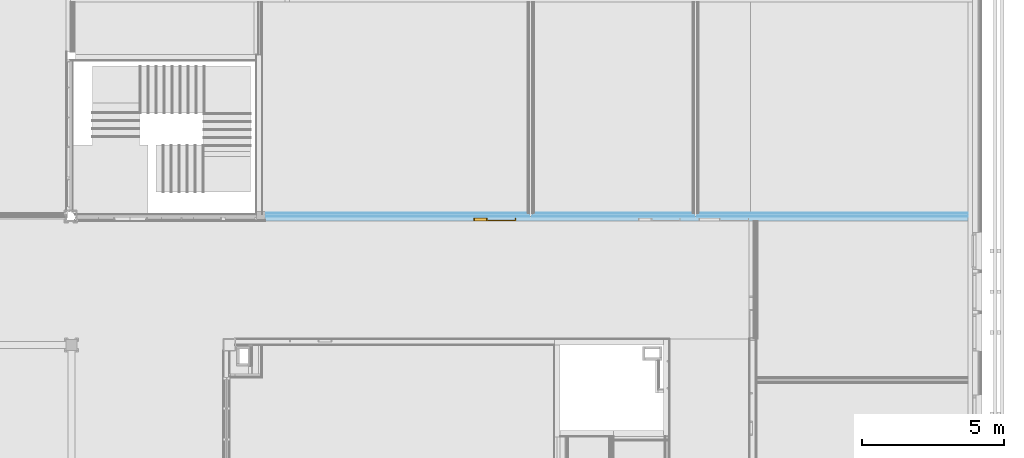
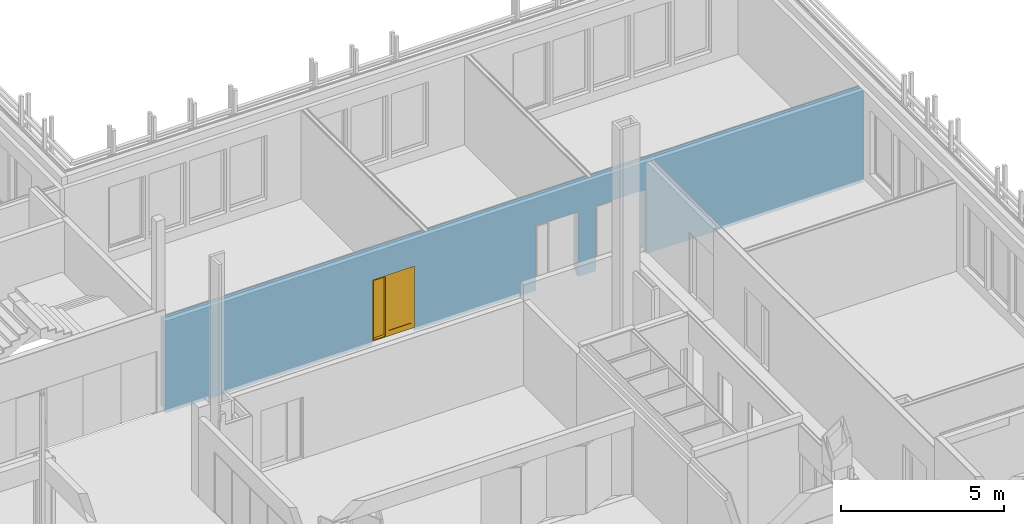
# One storey, part 69 of 139: 1 door, 3 openings, 1 element without a shape of its own, plus 7 elements that do not belong to this part.
"""IFC2X3 building model written with IfcOpenShell, lengths in millimetres."""

from ifc_helpers import new_model, entity, si_unit, converted_unit, derived_unit, money_unit, direction, frame, origin_with_axes, place, context, subcontext, project, spatial, open_shell, faceted_brep, surface_model, source, transform, mapped, material, type_object, element, fill, aggregate, save


model = new_model("IFC2X3")

# Units and contexts
model_context = context("Model", 3, precision=0.01, world=origin_with_axes(), true_north=direction((0.0, 1.0)))
body_context = subcontext(model_context, "Body", "Model", "MODEL_VIEW")
ifc_project = project(units=[si_unit("LENGTHUNIT", "METRE", prefix="MILLI"), si_unit("AREAUNIT", "SQUARE_METRE"), si_unit("VOLUMEUNIT", "CUBIC_METRE"), converted_unit("PLANEANGLEUNIT", "DEGREE", entity("IfcPlaneAngleMeasure", 0.0174532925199), si_unit("PLANEANGLEUNIT", "RADIAN"), dimensions=[0, 0, 0, 0, 0, 0, 0]), money_unit("EUR"), converted_unit("TIMEUNIT", "Year", entity("IfcTimeMeasure", 31556926.0), si_unit("TIMEUNIT", "SECOND"), dimensions=[0, 0, 1, 0, 0, 0, 0]), si_unit("MASSUNIT", "GRAM", prefix="KILO"), si_unit("THERMODYNAMICTEMPERATUREUNIT", "DEGREE_CELSIUS"), si_unit("LUMINOUSINTENSITYUNIT", "LUMEN"), si_unit("ENERGYUNIT", "JOULE", prefix="MEGA"), derived_unit("THERMALCONDUCTANCEUNIT", [(si_unit("POWERUNIT", "WATT"), 1), (si_unit("LENGTHUNIT", "METRE"), -1), (si_unit("THERMODYNAMICTEMPERATUREUNIT", "KELVIN"), -1)]), derived_unit("SPECIFICHEATCAPACITYUNIT", [(si_unit("ENERGYUNIT", "JOULE"), 1), (si_unit("MASSUNIT", "GRAM", prefix="KILO"), -1), (si_unit("THERMODYNAMICTEMPERATUREUNIT", "KELVIN"), -1)]), derived_unit("MASSDENSITYUNIT", [(si_unit("MASSUNIT", "GRAM", prefix="KILO"), 1), (si_unit("VOLUMEUNIT", "CUBIC_METRE"), -1)])], contexts=[model_context])

# Site, building, storey
site_placement = place(None, origin_with_axes())
site = spatial("IfcSite", under=ifc_project, at=site_placement, Name="Kolde pst 67a", CompositionType="ELEMENT")
building_placement = place(site_placement, origin_with_axes())
building = spatial("IfcBuilding", under=site, at=building_placement, Name="Riigigümnaasium", CompositionType="ELEMENT")
storey_placement = place(building_placement, frame((0.0, 0.0, 4600.0), z_axis=(0.0, 0.0, 1.0), x_axis=(1.0, 0.0, 0.0)))
storey = spatial("IfcBuildingStorey", under=building, at=storey_placement, Name="2. korrus", CompositionType="ELEMENT", Elevation=4600.0)

# Door
door_style = type_object("IfcDoorStyle", Name="Door with Sidelight on Side 2 25", ConstructionType="NOTDEFINED", OperationType="SINGLE_SWING_LEFT", ParameterTakesPrecedence=False, Sizeable=False)
shared_shape = source(origin_with_axes(), body_context, "Body", "SurfaceModel", [
    faceted_brep([(750.0, 0.0, 0.0), (750.0, -115.0, 0.0), (710.0, -115.0, 0.0), (710.0, 0.0, 0.0), (750.0, 0.0, 2260.0), (750.0, -115.0, 2260.0), (710.0, -115.0, 2260.0), (710.0, -115.0, 40.0), (710.0, 0.0, 40.0), (710.0, 0.0, 2260.0)], [[[0, 1, 2, 3]], [[4, 5, 1, 0]], [[1, 5, 6, 7, 2]], [[3, 2, 7, 8]], [[0, 3, 8, 9, 4]], [[9, 6, 5, 4]], [[8, 7, 6, 9]]]),
    faceted_brep([(250.0, -40.0, 0.0), (250.0, -115.0, 0.0), (250.0, -115.0, 2260.0), (250.0, -40.0, 2260.0), (262.0, -40.0, 0.0), (262.0, 0.0, 0.0), (290.0, 0.0, 0.0), (290.0, -115.0, 0.0), (290.0, -115.0, 40.0), (290.0, -115.0, 2260.0), (262.0, -40.0, 2260.0), (290.0, 0.0, 2260.0), (262.0, 0.0, 2260.0), (290.0, 0.0, 40.0)], [[[0, 1, 2, 3]], [[4, 5, 6, 7, 1, 0]], [[7, 8, 9, 2, 1]], [[10, 3, 2, 9, 11, 12]], [[10, 4, 0, 3]], [[12, 5, 4, 10]], [[12, 11, 13, 6, 5]], [[6, 13, 8, 7]], [[13, 11, 9, 8]]]),
    faceted_brep([(710.0, 0.0, 40.0), (710.0, -115.0, 40.0), (710.0, -115.0, 0.0), (710.0, 0.0, 0.0), (290.0, 0.0, 40.0), (290.0, -115.0, 40.0), (290.0, -115.0, 0.0), (290.0, 0.0, 0.0)], [[[0, 1, 2, 3]], [[4, 5, 1, 0]], [[1, 5, 6, 2]], [[3, 2, 6, 7]], [[0, 3, 7, 4]], [[7, 6, 5, 4]]]),
    faceted_brep([(-722.0, -40.0, 2260.0), (-722.0, 0.0, 2260.0), (-750.0, 0.0, 2260.0), (-750.0, -115.0, 2260.0), (-710.0, -115.0, 2260.0), (-710.0, -40.0, 2260.0), (-722.0, -40.0, 0.0), (-722.0, 0.0, 0.0), (-750.0, 0.0, 0.0), (-750.0, -115.0, 0.0), (-710.0, -115.0, 0.0), (-710.0, -40.0, 0.0)], [[[0, 1, 2, 3, 4, 5]], [[0, 6, 7, 1]], [[7, 8, 2, 1]], [[2, 8, 9, 3]], [[3, 9, 10, 4]], [[5, 4, 10, 11]], [[5, 11, 6, 0]], [[6, 11, 10, 9, 8, 7]]]),
    faceted_brep([(262.0, 0.0, 2272.0), (-722.0, 0.0, 2272.0), (-722.0, 0.0, 2260.0), (-750.0, 0.0, 2260.0), (-750.0, 0.0, 2300.0), (750.0, 0.0, 2300.0), (750.0, 0.0, 2260.0), (710.0, 0.0, 2260.0), (290.0, 0.0, 2260.0), (262.0, 0.0, 2260.0), (262.0, -40.0, 2272.0), (-722.0, -40.0, 2272.0), (-722.0, -40.0, 2260.0), (-710.0, -40.0, 2260.0), (-710.0, -115.0, 2260.0), (-750.0, -115.0, 2260.0), (-750.0, -115.0, 2300.0), (750.0, -115.0, 2300.0), (750.0, -115.0, 2260.0), (710.0, -115.0, 2260.0), (290.0, -115.0, 2260.0), (262.0, -40.0, 2260.0), (250.0, -115.0, 2260.0)], [[[0, 1, 2, 3, 4, 5, 6, 7, 8, 9]], [[0, 10, 11, 1]], [[1, 11, 12, 2]], [[12, 13, 14, 15, 3, 2]], [[4, 3, 15, 16]], [[5, 4, 16, 17]], [[6, 5, 17, 18]], [[7, 6, 18, 19]], [[8, 7, 19, 20]], [[21, 9, 8, 20, 22, 14, 13]], [[9, 21, 10, 0]], [[12, 11, 10, 21, 13]], [[14, 22, 20, 19, 18, 17, 16, 15]]]),
    faceted_brep([(-722.0, 0.0, 200.0), (-622.0, 0.0, 200.0), (-622.0, -40.0, 200.0), (-722.0, -40.0, 200.0), (-722.0, 0.0, 2172.0), (-622.0, 0.0, 2172.0), (-622.0, -40.0, 2172.0), (-722.0, -40.0, 2172.0)], [[[0, 1, 2, 3]], [[0, 4, 5, 1]], [[1, 5, 6, 2]], [[3, 2, 6, 7]], [[4, 0, 3, 7]], [[5, 4, 7, 6]]]),
    faceted_brep([(262.0, 0.0, 200.0), (262.0, 0.0, 2172.0), (262.0, -40.0, 2172.0), (262.0, -40.0, 200.0), (162.0, 0.0, 200.0), (162.0, 0.0, 2172.0), (162.0, -40.0, 2172.0), (162.0, -40.0, 200.0)], [[[0, 1, 2, 3]], [[0, 4, 5, 1]], [[1, 5, 6, 2]], [[3, 2, 6, 7]], [[4, 0, 3, 7]], [[5, 4, 7, 6]]]),
    faceted_brep([(-722.0, 0.0, 0.0), (262.0, 0.0, 0.0), (262.0, -40.0, 0.0), (-722.0, -40.0, 0.0), (-722.0, 0.0, 200.0), (-622.0, 0.0, 200.0), (162.0, 0.0, 200.0), (262.0, 0.0, 200.0), (262.0, -40.0, 200.0), (162.0, -40.0, 200.0), (-622.0, -40.0, 200.0), (-722.0, -40.0, 200.0)], [[[0, 1, 2, 3]], [[0, 4, 5, 6, 7, 1]], [[1, 7, 8, 2]], [[3, 2, 8, 9, 10, 11]], [[4, 0, 3, 11]], [[5, 4, 11, 10]], [[6, 5, 10, 9]], [[7, 6, 9, 8]]]),
    faceted_brep([(-722.0, 0.0, 2272.0), (-722.0, 0.0, 2172.0), (-722.0, -40.0, 2172.0), (-722.0, -40.0, 2272.0), (262.0, 0.0, 2272.0), (262.0, 0.0, 2172.0), (162.0, 0.0, 2172.0), (-622.0, 0.0, 2172.0), (-622.0, -40.0, 2172.0), (162.0, -40.0, 2172.0), (262.0, -40.0, 2172.0), (262.0, -40.0, 2272.0)], [[[0, 1, 2, 3]], [[0, 4, 5, 6, 7, 1]], [[1, 7, 8, 2]], [[3, 2, 8, 9, 10, 11]], [[4, 0, 3, 11]], [[5, 4, 11, 10]], [[6, 5, 10, 9]], [[7, 6, 9, 8]]]),
    surface_model("IfcShellBasedSurfaceModel", [(-622.0, -14.0, 200.0), (-622.0, -14.0, 2172.0), (162.0, -14.0, 2172.0), (162.0, -14.0, 200.0)], [open_shell([[[0, 1, 2, 3]]])]),
    surface_model("IfcShellBasedSurfaceModel", [(-622.0, -26.0, 200.0), (162.0, -26.0, 200.0), (162.0, -26.0, 2172.0), (-622.0, -26.0, 2172.0)], [open_shell([[[0, 1, 2, 3]]])]),
    surface_model("IfcShellBasedSurfaceModel", [(710.0, -91.0, 40.0), (290.0, -91.0, 40.0), (290.0, -91.0, 2260.0), (710.0, -91.0, 2260.0)], [open_shell([[[0, 1, 2, 3]]])]),
    surface_model("IfcShellBasedSurfaceModel", [(710.0, -103.0, 40.0), (710.0, -103.0, 2260.0), (290.0, -103.0, 2260.0), (290.0, -103.0, 40.0)], [open_shell([[[0, 1, 2, 3]]])]),
])
wall_placement = place(storey_placement, frame((59580.0567695, 28589.9996998, -130.0), z_axis=(0.0, 0.0, 1.0), x_axis=(1.0, 0.0, 0.0)))
opening_3_placement = place(wall_placement, frame((8069.93597543, 0.0, 130.0), z_axis=(0.0, 0.0, 1.0), x_axis=(1.0, 0.0, 0.0)))
door_placement = place(opening_3_placement, frame((750.0, 0.0, 0.0), z_axis=(0.0, 0.0, 1.0), x_axis=(-1.0, 0.0, 0.0)))
door = element("IfcDoor", 1, at=door_placement, inside=storey, type_object=door_style, Name="Siseuks", ObjectType="DOOR", OverallHeight=2300.0, OverallWidth=1500.0, context=body_context, shape_type="MappedRepresentation", body=[
    mapped(shared_shape, transform((750.0, 0.0, 0.0))),
])

# Wall, openings
wall_type = type_object("IfcWallType", Name="SS-CLT-16/1_vill75+krohv 52 dB 300", PredefinedType="NOTDEFINED")
wall = element("IfcWall", 2, at=wall_placement, inside=storey, type_object=wall_type, Name="Sisesein")
opening_1_placement = place(wall_placement, frame((13859.9892241, 0.0, 130.0), z_axis=(0.0, 0.0, 1.0), x_axis=(1.0, 0.0, 0.0)))
element("IfcOpeningElement", 3, at=opening_1_placement, cuts=wall, Name="Siseuks", context=body_context, shape_type="Brep", body=[
    faceted_brep([(750.0, -600.0, 2300.0), (750.0, -600.0, 0.0), (750.0, 300.0, 0.0), (750.0, 300.0, 2300.0), (-750.0, -600.0, 2300.0), (-750.0, -600.0, 0.0), (-750.0, 300.0, 0.0), (-750.0, 300.0, 2300.0)], [[[0, 1, 2, 3]], [[0, 4, 5, 1]], [[1, 5, 6, 2]], [[3, 2, 6, 7]], [[4, 0, 3, 7]], [[5, 4, 7, 6]]]),
])
opening_2_placement = place(wall_placement, frame((16119.9450194, 0.0, 130.0), z_axis=(0.0, 0.0, 1.0), x_axis=(1.0, 0.0, 0.0)))
element("IfcOpeningElement", 4, at=opening_2_placement, cuts=wall, Name="Siseuks", context=body_context, shape_type="Brep", body=[
    faceted_brep([(890.0, -600.0, 2300.0), (890.0, -600.0, 0.0), (890.0, 300.0, 0.0), (890.0, 300.0, 2300.0), (-890.0, -600.0, 2300.0), (-890.0, -600.0, 0.0), (-890.0, 300.0, 0.0), (-890.0, 300.0, 2300.0)], [[[0, 1, 2, 3]], [[0, 4, 5, 1]], [[1, 5, 6, 2]], [[3, 2, 6, 7]], [[4, 0, 3, 7]], [[5, 4, 7, 6]]]),
])
opening_3 = element("IfcOpeningElement", 5, at=opening_3_placement, cuts=wall, Name="Siseuks", context=body_context, shape_type="Brep", body=[
    faceted_brep([(750.0, -600.0, 2300.0), (750.0, -600.0, 0.0), (750.0, 300.0, 0.0), (750.0, 300.0, 2300.0), (-750.0, -600.0, 2300.0), (-750.0, -600.0, 0.0), (-750.0, 300.0, 0.0), (-750.0, 300.0, 2300.0)], [[[0, 1, 2, 3]], [[0, 4, 5, 1]], [[1, 5, 6, 2]], [[3, 2, 6, 7]], [[4, 0, 3, 7]], [[5, 4, 7, 6]]]),
])

fill(opening_3, door)

# Building element part
ifc_material_1 = material(Name="_VIIMISTLUSKIHT - viimistlus vastavalt SA osale")
building_element_part_1_placement = place(wall_placement, origin_with_axes())
building_element_part_1 = element("IfcBuildingElementPart", 6, at=building_element_part_1_placement, material=ifc_material_1, Name="_VIIMISTLUSKIHT - viimistlus vastavalt SA osale", context=body_context, shape_type="Brep", body=[
    faceted_brep([(13109.9892241, 300.0, 2430.0), (13109.9892241, 300.0, 130.0), (9449.94161294, 300.0, 130.0), (9449.94161294, 300.0, 3450.0), (15029.9892602, 300.0, 3450.0), (15029.9892602, 300.0, 130.0), (14609.9892241, 300.0, 130.0), (14609.9892241, 300.0, 2430.0), (13109.9892241, 290.0, 2430.0), (13109.9892241, 290.0, 130.0), (9449.94161294, 290.0, 130.0), (9449.94161294, 290.0, 3450.0), (15029.9892602, 290.0, 3450.0), (15029.9892602, 290.0, 130.0), (14609.9892241, 290.0, 130.0), (14609.9892241, 290.0, 2430.0)], [[[0, 1, 2, 3, 4, 5, 6, 7]], [[1, 0, 8, 9]], [[1, 9, 10, 2]], [[3, 2, 10, 11]], [[4, 3, 11, 12]], [[12, 13, 5, 4]], [[14, 6, 5, 13]], [[7, 6, 14, 15]], [[0, 7, 15, 8]], [[15, 14, 13, 12, 11, 10, 9, 8]]]),
    faceted_brep([(7319.93597543, 300.0, 2430.0), (7319.93597543, 300.0, 130.0), (0.0, 300.0, 130.0), (0.0, 300.0, 3450.0), (9239.94161294, 300.0, 3450.0), (9239.94161294, 300.0, 130.0), (8819.93597543, 300.0, 130.0), (8819.93597543, 300.0, 2430.0), (7319.93597543, 290.0, 2430.0), (7319.93597543, 290.0, 130.0), (0.0, 290.0, 130.0), (0.0, 290.0, 3450.0), (9239.94161294, 290.0, 3450.0), (9239.94161294, 290.0, 130.0), (8819.93597543, 290.0, 130.0), (8819.93597543, 290.0, 2430.0)], [[[0, 1, 2, 3, 4, 5, 6, 7]], [[1, 0, 8, 9]], [[1, 9, 10, 2]], [[3, 2, 10, 11]], [[4, 3, 11, 12]], [[12, 13, 5, 4]], [[14, 6, 5, 13]], [[7, 6, 14, 15]], [[0, 7, 15, 8]], [[15, 14, 13, 12, 11, 10, 9, 8]]]),
    faceted_brep([(17009.9450194, 300.0, 2430.0), (15239.9892602, 300.0, 2430.0), (15239.9892602, 300.0, 3450.0), (17069.9380539, 300.0, 3450.0), (17069.9380539, 300.0, 3436.9), (24699.9425584, 300.0, 3436.9), (24699.9425584, 300.0, 130.0), (17009.9450194, 300.0, 130.0), (17009.9450194, 290.0, 2430.0), (15239.9892602, 290.0, 2430.0), (15239.9892602, 290.0, 3450.0), (17069.9380539, 290.0, 3450.0), (17069.9380539, 290.0, 3436.9), (24699.9425584, 290.0, 3436.9), (24699.9425584, 290.0, 130.0), (17009.9450194, 290.0, 130.0)], [[[0, 1, 2, 3, 4, 5, 6, 7]], [[1, 0, 8, 9]], [[1, 9, 10, 2]], [[3, 2, 10, 11]], [[11, 12, 4, 3]], [[5, 4, 12, 13]], [[13, 14, 6, 5]], [[15, 7, 6, 14]], [[0, 7, 15, 8]], [[8, 15, 14, 13, 12, 11, 10, 9]]]),
])

ifc_material_2 = material(Name="_PLAATMATERJAL - tuletõkkekipsplaat, Knauf Red GKF või samaväärne")
building_element_part_2_placement = place(wall_placement, origin_with_axes())
building_element_part_2 = element("IfcBuildingElementPart", 7, at=building_element_part_2_placement, material=ifc_material_2, Name="_PLAATMATERJAL - tuletõkkekipsplaat, Knauf Red GKF või samaväärne", context=body_context, shape_type="Brep", body=[
    faceted_brep([(13109.9892241, 290.0, 2430.0), (13109.9892241, 290.0, 130.0), (13109.9892241, 290.0, 127.0), (9434.94161294, 290.0, 127.0), (9434.94161294, 290.0, 3450.0), (15044.9892602, 290.0, 3450.0), (15044.9892602, 290.0, 127.0), (14609.9892241, 290.0, 127.0), (14609.9892241, 290.0, 130.0), (14609.9892241, 290.0, 2430.0), (13109.9892241, 275.0, 2430.0), (13109.9892241, 275.0, 130.0), (13109.9892241, 275.0, 127.0), (9434.94161294, 275.0, 127.0), (9434.94161294, 275.0, 3450.0), (15044.9892602, 275.0, 3450.0), (15044.9892602, 275.0, 127.0), (14609.9892241, 275.0, 127.0), (14609.9892241, 275.0, 130.0), (14609.9892241, 275.0, 2430.0)], [[[0, 1, 2, 3, 4, 5, 6, 7, 8, 9]], [[1, 0, 10, 11]], [[1, 11, 12, 2]], [[12, 13, 3, 2]], [[4, 3, 13, 14]], [[5, 4, 14, 15]], [[15, 16, 6, 5]], [[7, 6, 16, 17]], [[18, 8, 7, 17]], [[9, 8, 18, 19]], [[0, 9, 19, 10]], [[19, 18, 17, 16, 15, 14, 13, 12, 11, 10]]]),
    faceted_brep([(7319.93597543, 290.0, 2430.0), (7319.93597543, 290.0, 130.0), (7319.93597543, 290.0, 127.0), (0.0, 290.0, 127.0), (0.0, 290.0, 3450.0), (9254.94161294, 290.0, 3450.0), (9254.94161294, 290.0, 127.0), (8819.93597543, 290.0, 127.0), (8819.93597543, 290.0, 130.0), (8819.93597543, 290.0, 2430.0), (7319.93597543, 275.0, 2430.0), (7319.93597543, 275.0, 130.0), (7319.93597543, 275.0, 127.0), (0.0, 275.0, 127.0), (0.0, 275.0, 3450.0), (9254.94161294, 275.0, 3450.0), (9254.94161294, 275.0, 127.0), (8819.93597543, 275.0, 127.0), (8819.93597543, 275.0, 130.0), (8819.93597543, 275.0, 2430.0)], [[[0, 1, 2, 3, 4, 5, 6, 7, 8, 9]], [[1, 0, 10, 11]], [[1, 11, 12, 2]], [[12, 13, 3, 2]], [[4, 3, 13, 14]], [[5, 4, 14, 15]], [[15, 16, 6, 5]], [[7, 6, 16, 17]], [[18, 8, 7, 17]], [[9, 8, 18, 19]], [[0, 9, 19, 10]], [[19, 18, 17, 16, 15, 14, 13, 12, 11, 10]]]),
    faceted_brep([(15229.9450194, 290.0, 2430.0), (15229.9450194, 290.0, 130.0), (15229.9450194, 290.0, 127.0), (15224.9892602, 290.0, 127.0), (15224.9892602, 290.0, 3450.0), (17069.9380539, 290.0, 3450.0), (17069.9380539, 290.0, 3436.9), (24699.9425584, 290.0, 3436.9), (24699.9425584, 290.0, 127.0), (17009.9450194, 290.0, 127.0), (17009.9450194, 290.0, 130.0), (17009.9450194, 290.0, 2430.0), (15229.9450194, 275.0, 2430.0), (15229.9450194, 275.0, 130.0), (15229.9450194, 275.0, 127.0), (15224.9892602, 275.0, 127.0), (15224.9892602, 275.0, 3450.0), (17069.9380539, 275.0, 3450.0), (17069.9380539, 275.0, 3436.9), (24699.9425584, 275.0, 3436.9), (24699.9425584, 275.0, 127.0), (17009.9450194, 275.0, 127.0), (17009.9450194, 275.0, 130.0), (17009.9450194, 275.0, 2430.0)], [[[0, 1, 2, 3, 4, 5, 6, 7, 8, 9, 10, 11]], [[1, 0, 12, 13]], [[1, 13, 14, 2]], [[14, 15, 3, 2]], [[4, 3, 15, 16]], [[5, 4, 16, 17]], [[17, 18, 6, 5]], [[7, 6, 18, 19]], [[19, 20, 8, 7]], [[20, 21, 9, 8]], [[22, 10, 9, 21]], [[11, 10, 22, 23]], [[0, 11, 23, 12]], [[23, 22, 21, 20, 19, 18, 17, 16, 15, 14, 13, 12]]]),
])

building_element_part_3_placement = place(wall_placement, origin_with_axes())
building_element_part_3 = element("IfcBuildingElementPart", 8, at=building_element_part_3_placement, material=ifc_material_2, Name="_PLAATMATERJAL - tuletõkkekipsplaat, Knauf Red GKF või samaväärne", context=body_context, shape_type="Brep", body=[
    faceted_brep([(13109.9892241, 275.0, 2430.0), (13109.9892241, 275.0, 130.0), (13109.9892241, 275.0, 127.0), (9394.94161294, 275.0, 127.0), (9394.94161294, 275.0, 3450.0), (15084.9892602, 275.0, 3450.0), (15084.9892602, 275.0, 127.0), (14609.9892241, 275.0, 127.0), (14609.9892241, 275.0, 130.0), (14609.9892241, 275.0, 2430.0), (13109.9892241, 260.0, 2430.0), (13109.9892241, 260.0, 130.0), (13109.9892241, 260.0, 127.0), (9394.94161294, 260.0, 127.0), (9394.94161294, 260.0, 3450.0), (15084.9892602, 260.0, 3450.0), (15084.9892602, 260.0, 127.0), (14609.9892241, 260.0, 127.0), (14609.9892241, 260.0, 130.0), (14609.9892241, 260.0, 2430.0)], [[[0, 1, 2, 3, 4, 5, 6, 7, 8, 9]], [[1, 0, 10, 11]], [[1, 11, 12, 2]], [[12, 13, 3, 2]], [[4, 3, 13, 14]], [[5, 4, 14, 15]], [[15, 16, 6, 5]], [[7, 6, 16, 17]], [[18, 8, 7, 17]], [[9, 8, 18, 19]], [[0, 9, 19, 10]], [[19, 18, 17, 16, 15, 14, 13, 12, 11, 10]]]),
    faceted_brep([(7319.93597543, 275.0, 2430.0), (7319.93597543, 275.0, 130.0), (7319.93597543, 275.0, 127.0), (0.0, 275.0, 127.0), (0.0, 275.0, 3450.0), (9294.94161294, 275.0, 3450.0), (9294.94161294, 275.0, 127.0), (8819.93597543, 275.0, 127.0), (8819.93597543, 275.0, 130.0), (8819.93597543, 275.0, 2430.0), (7319.93597543, 260.0, 2430.0), (7319.93597543, 260.0, 130.0), (7319.93597543, 260.0, 127.0), (0.0, 260.0, 127.0), (0.0, 260.0, 3450.0), (9294.94161294, 260.0, 3450.0), (9294.94161294, 260.0, 127.0), (8819.93597543, 260.0, 127.0), (8819.93597543, 260.0, 130.0), (8819.93597543, 260.0, 2430.0)], [[[0, 1, 2, 3, 4, 5, 6, 7, 8, 9]], [[1, 0, 10, 11]], [[1, 11, 12, 2]], [[12, 13, 3, 2]], [[4, 3, 13, 14]], [[5, 4, 14, 15]], [[15, 16, 6, 5]], [[7, 6, 16, 17]], [[18, 8, 7, 17]], [[9, 8, 18, 19]], [[0, 9, 19, 10]], [[19, 18, 17, 16, 15, 14, 13, 12, 11, 10]]]),
    faceted_brep([(15229.9450194, 275.0, 2430.0), (15229.9450194, 275.0, 130.0), (15229.9450194, 275.0, 127.0), (15184.9892602, 275.0, 127.0), (15184.9892602, 275.0, 3450.0), (17069.9380539, 275.0, 3450.0), (17069.9380539, 275.0, 3436.9), (24699.9425584, 275.0, 3436.9), (24699.9425584, 275.0, 127.0), (17009.9450194, 275.0, 127.0), (17009.9450194, 275.0, 130.0), (17009.9450194, 275.0, 2430.0), (15229.9450194, 260.0, 2430.0), (15229.9450194, 260.0, 130.0), (15229.9450194, 260.0, 127.0), (15184.9892602, 260.0, 127.0), (15184.9892602, 260.0, 3450.0), (17069.9380539, 260.0, 3450.0), (17069.9380539, 260.0, 3436.9), (24699.9425584, 260.0, 3436.9), (24699.9425584, 260.0, 127.0), (17009.9450194, 260.0, 127.0), (17009.9450194, 260.0, 130.0), (17009.9450194, 260.0, 2430.0)], [[[0, 1, 2, 3, 4, 5, 6, 7, 8, 9, 10, 11]], [[1, 0, 12, 13]], [[1, 13, 14, 2]], [[14, 15, 3, 2]], [[4, 3, 15, 16]], [[5, 4, 16, 17]], [[17, 18, 6, 5]], [[7, 6, 18, 19]], [[19, 20, 8, 7]], [[20, 21, 9, 8]], [[22, 10, 9, 21]], [[11, 10, 22, 23]], [[0, 11, 23, 12]], [[23, 22, 21, 20, 19, 18, 17, 16, 15, 14, 13, 12]]]),
])

ifc_material_3 = material(Name="_PLAATMATERJAL - OSB3 plaat")
building_element_part_4_placement = place(wall_placement, origin_with_axes())
building_element_part_4 = element("IfcBuildingElementPart", 9, at=building_element_part_4_placement, material=ifc_material_3, Name="_PLAATMATERJAL - OSB3 plaat", context=body_context, shape_type="Brep", body=[
    faceted_brep([(13109.9892241, 260.0, 2430.0), (13109.9892241, 260.0, 130.0), (13109.9892241, 260.0, 127.0), (9394.94161294, 260.0, 127.0), (9394.94161294, 260.0, 3450.0), (15084.9892602, 260.0, 3450.0), (15084.9892602, 260.0, 127.0), (14609.9892241, 260.0, 127.0), (14609.9892241, 260.0, 130.0), (14609.9892241, 260.0, 2430.0), (13109.9892241, 250.0, 2430.0), (13109.9892241, 250.0, 130.0), (13109.9892241, 250.0, 127.0), (9394.94161294, 250.0, 127.0), (9394.94161294, 250.0, 3450.0), (15084.9892602, 250.0, 3450.0), (15084.9892602, 250.0, 127.0), (14609.9892241, 250.0, 127.0), (14609.9892241, 250.0, 130.0), (14609.9892241, 250.0, 2430.0)], [[[0, 1, 2, 3, 4, 5, 6, 7, 8, 9]], [[1, 0, 10, 11]], [[1, 11, 12, 2]], [[12, 13, 3, 2]], [[4, 3, 13, 14]], [[5, 4, 14, 15]], [[15, 16, 6, 5]], [[7, 6, 16, 17]], [[18, 8, 7, 17]], [[9, 8, 18, 19]], [[0, 9, 19, 10]], [[19, 18, 17, 16, 15, 14, 13, 12, 11, 10]]]),
    faceted_brep([(7319.93597543, 260.0, 2430.0), (7319.93597543, 260.0, 130.0), (7319.93597543, 260.0, 127.0), (0.0, 260.0, 127.0), (0.0, 260.0, 3450.0), (9294.94161294, 260.0, 3450.0), (9294.94161294, 260.0, 127.0), (8819.93597543, 260.0, 127.0), (8819.93597543, 260.0, 130.0), (8819.93597543, 260.0, 2430.0), (7319.93597543, 250.0, 2430.0), (7319.93597543, 250.0, 130.0), (7319.93597543, 250.0, 127.0), (0.0, 250.0, 127.0), (0.0, 250.0, 3450.0), (9294.94161294, 250.0, 3450.0), (9294.94161294, 250.0, 127.0), (8819.93597543, 250.0, 127.0), (8819.93597543, 250.0, 130.0), (8819.93597543, 250.0, 2430.0)], [[[0, 1, 2, 3, 4, 5, 6, 7, 8, 9]], [[1, 0, 10, 11]], [[1, 11, 12, 2]], [[12, 13, 3, 2]], [[4, 3, 13, 14]], [[5, 4, 14, 15]], [[15, 16, 6, 5]], [[7, 6, 16, 17]], [[18, 8, 7, 17]], [[9, 8, 18, 19]], [[0, 9, 19, 10]], [[19, 18, 17, 16, 15, 14, 13, 12, 11, 10]]]),
    faceted_brep([(15229.9450194, 260.0, 2430.0), (15229.9450194, 260.0, 130.0), (15229.9450194, 260.0, 127.0), (15184.9892602, 260.0, 127.0), (15184.9892602, 260.0, 3450.0), (17069.9380539, 260.0, 3450.0), (17069.9380539, 260.0, 3436.9), (24699.9425584, 260.0, 3436.9), (24699.9425584, 260.0, 127.0), (17009.9450194, 260.0, 127.0), (17009.9450194, 260.0, 130.0), (17009.9450194, 260.0, 2430.0), (15229.9450194, 250.0, 2430.0), (15229.9450194, 250.0, 130.0), (15229.9450194, 250.0, 127.0), (15184.9892602, 250.0, 127.0), (15184.9892602, 250.0, 3450.0), (17069.9380539, 250.0, 3450.0), (17069.9380539, 250.0, 3436.9), (24699.9425584, 250.0, 3436.9), (24699.9425584, 250.0, 127.0), (17009.9450194, 250.0, 127.0), (17009.9450194, 250.0, 130.0), (17009.9450194, 250.0, 2430.0)], [[[0, 1, 2, 3, 4, 5, 6, 7, 8, 9, 10, 11]], [[1, 0, 12, 13]], [[1, 13, 14, 2]], [[14, 15, 3, 2]], [[4, 3, 15, 16]], [[5, 4, 16, 17]], [[17, 18, 6, 5]], [[7, 6, 18, 19]], [[19, 20, 8, 7]], [[20, 21, 9, 8]], [[22, 10, 9, 21]], [[11, 10, 22, 23]], [[0, 11, 23, 12]], [[23, 22, 21, 20, 19, 18, 17, 16, 15, 14, 13, 12]]]),
])

ifc_material_4 = material(Name="_KARKASS - metallkarkass CW 75/50/06 ja UW 75/40/06, samm 600, vahel mineraalvill, helineeldetegur αw = 1.0,  ISOVER ACOUSTIC 75mm või samaväärne")
building_element_part_5_placement = place(wall_placement, origin_with_axes())
building_element_part_5 = element("IfcBuildingElementPart", 10, at=building_element_part_5_placement, material=ifc_material_4, Name="_KARKASS - metallkarkass CW 75/50/06 ja UW 75/40/06, samm 600, vahel mineraalvill, helineeldetegur αw = 1.0,  ISOVER ACOUSTIC 75mm või samaväärne", context=body_context, shape_type="Brep", body=[
    faceted_brep([(13109.9892241, 250.0, 2430.0), (13109.9892241, 250.0, 130.0), (13109.9892241, 250.0, 127.0), (9394.94161294, 250.0, 127.0), (9394.94161294, 250.0, 3450.0), (15084.9892602, 250.0, 3450.0), (15084.9892602, 250.0, 127.0), (14609.9892241, 250.0, 127.0), (14609.9892241, 250.0, 130.0), (14609.9892241, 250.0, 2430.0), (13109.9892241, 175.0, 2430.0), (13109.9892241, 175.0, 130.0), (13109.9892241, 175.0, 127.0), (9394.94161294, 175.0, 127.0), (9394.94161294, 175.0, 3450.0), (15084.9892602, 175.0, 3450.0), (15084.9892602, 175.0, 127.0), (14609.9892241, 175.0, 127.0), (14609.9892241, 175.0, 130.0), (14609.9892241, 175.0, 2430.0)], [[[0, 1, 2, 3, 4, 5, 6, 7, 8, 9]], [[1, 0, 10, 11]], [[1, 11, 12, 2]], [[12, 13, 3, 2]], [[4, 3, 13, 14]], [[5, 4, 14, 15]], [[15, 16, 6, 5]], [[7, 6, 16, 17]], [[18, 8, 7, 17]], [[9, 8, 18, 19]], [[0, 9, 19, 10]], [[19, 18, 17, 16, 15, 14, 13, 12, 11, 10]]]),
    faceted_brep([(7319.93597543, 250.0, 2430.0), (7319.93597543, 250.0, 130.0), (7319.93597543, 250.0, 127.0), (0.0, 250.0, 127.0), (0.0, 250.0, 3450.0), (9294.94161294, 250.0, 3450.0), (9294.94161294, 250.0, 127.0), (8819.93597543, 250.0, 127.0), (8819.93597543, 250.0, 130.0), (8819.93597543, 250.0, 2430.0), (7319.93597543, 175.0, 2430.0), (7319.93597543, 175.0, 130.0), (7319.93597543, 175.0, 127.0), (0.0, 175.0, 127.0), (0.0, 175.0, 3450.0), (9294.94161294, 175.0, 3450.0), (9294.94161294, 175.0, 127.0), (8819.93597543, 175.0, 127.0), (8819.93597543, 175.0, 130.0), (8819.93597543, 175.0, 2430.0)], [[[0, 1, 2, 3, 4, 5, 6, 7, 8, 9]], [[1, 0, 10, 11]], [[1, 11, 12, 2]], [[12, 13, 3, 2]], [[4, 3, 13, 14]], [[5, 4, 14, 15]], [[15, 16, 6, 5]], [[7, 6, 16, 17]], [[18, 8, 7, 17]], [[9, 8, 18, 19]], [[0, 9, 19, 10]], [[19, 18, 17, 16, 15, 14, 13, 12, 11, 10]]]),
    faceted_brep([(15229.9450194, 250.0, 2430.0), (15229.9450194, 250.0, 130.0), (15229.9450194, 250.0, 127.0), (15184.9892602, 250.0, 127.0), (15184.9892602, 250.0, 3450.0), (17069.9380539, 250.0, 3450.0), (17069.9380539, 250.0, 3436.9), (24699.9425584, 250.0, 3436.9), (24699.9425584, 250.0, 127.0), (17009.9450194, 250.0, 127.0), (17009.9450194, 250.0, 130.0), (17009.9450194, 250.0, 2430.0), (15229.9450194, 175.0, 2430.0), (15229.9450194, 175.0, 130.0), (15229.9450194, 175.0, 127.0), (15184.9892602, 175.0, 127.0), (15184.9892602, 175.0, 3450.0), (17069.9380539, 175.0, 3450.0), (17069.9380539, 175.0, 3436.9), (24699.9425584, 175.0, 3436.9), (24699.9425584, 175.0, 127.0), (17009.9450194, 175.0, 127.0), (17009.9450194, 175.0, 130.0), (17009.9450194, 175.0, 2430.0)], [[[0, 1, 2, 3, 4, 5, 6, 7, 8, 9, 10, 11]], [[1, 0, 12, 13]], [[1, 13, 14, 2]], [[14, 15, 3, 2]], [[4, 3, 15, 16]], [[5, 4, 16, 17]], [[17, 18, 6, 5]], [[7, 6, 18, 19]], [[19, 20, 8, 7]], [[20, 21, 9, 8]], [[22, 10, 9, 21]], [[11, 10, 22, 23]], [[0, 11, 23, 12]], [[23, 22, 21, 20, 19, 18, 17, 16, 15, 14, 13, 12]]]),
])

ifc_material_5 = material(Name="_ÕHKVAHE")
building_element_part_6_placement = place(wall_placement, origin_with_axes())
building_element_part_6 = element("IfcBuildingElementPart", 11, at=building_element_part_6_placement, material=ifc_material_5, Name="_ÕHKVAHE", context=body_context, shape_type="Brep", body=[
    faceted_brep([(13109.9892241, 175.0, 2430.0), (13109.9892241, 175.0, 130.0), (13109.9892241, 175.0, 127.0), (9394.94161294, 175.0, 127.0), (9394.94161294, 175.0, 3450.0), (15084.9892602, 175.0, 3450.0), (15084.9892602, 175.0, 127.0), (14609.9892241, 175.0, 127.0), (14609.9892241, 175.0, 130.0), (14609.9892241, 175.0, 2430.0), (13109.9892241, 160.0, 2430.0), (13109.9892241, 160.0, 130.0), (13109.9892241, 160.0, 127.0), (9394.94161294, 160.0, 127.0), (9394.94161294, 160.0, 3450.0), (15084.9892602, 160.0, 3450.0), (15084.9892602, 160.0, 127.0), (14609.9892241, 160.0, 127.0), (14609.9892241, 160.0, 130.0), (14609.9892241, 160.0, 2430.0)], [[[0, 1, 2, 3, 4, 5, 6, 7, 8, 9]], [[1, 0, 10, 11]], [[1, 11, 12, 2]], [[12, 13, 3, 2]], [[4, 3, 13, 14]], [[5, 4, 14, 15]], [[15, 16, 6, 5]], [[7, 6, 16, 17]], [[18, 8, 7, 17]], [[9, 8, 18, 19]], [[0, 9, 19, 10]], [[19, 18, 17, 16, 15, 14, 13, 12, 11, 10]]]),
    faceted_brep([(7319.93597543, 175.0, 2430.0), (7319.93597543, 175.0, 130.0), (7319.93597543, 175.0, 127.0), (0.0, 175.0, 127.0), (0.0, 175.0, 3450.0), (9294.94161294, 175.0, 3450.0), (9294.94161294, 175.0, 127.0), (8819.93597543, 175.0, 127.0), (8819.93597543, 175.0, 130.0), (8819.93597543, 175.0, 2430.0), (7319.93597543, 160.0, 2430.0), (7319.93597543, 160.0, 130.0), (7319.93597543, 160.0, 127.0), (0.0, 160.0, 127.0), (0.0, 160.0, 3450.0), (9294.94161294, 160.0, 3450.0), (9294.94161294, 160.0, 127.0), (8819.93597543, 160.0, 127.0), (8819.93597543, 160.0, 130.0), (8819.93597543, 160.0, 2430.0)], [[[0, 1, 2, 3, 4, 5, 6, 7, 8, 9]], [[1, 0, 10, 11]], [[1, 11, 12, 2]], [[12, 13, 3, 2]], [[4, 3, 13, 14]], [[5, 4, 14, 15]], [[15, 16, 6, 5]], [[7, 6, 16, 17]], [[18, 8, 7, 17]], [[9, 8, 18, 19]], [[0, 9, 19, 10]], [[19, 18, 17, 16, 15, 14, 13, 12, 11, 10]]]),
    faceted_brep([(15229.9450194, 175.0, 2430.0), (15229.9450194, 175.0, 130.0), (15229.9450194, 175.0, 127.0), (15184.9892602, 175.0, 127.0), (15184.9892602, 175.0, 3450.0), (17069.9380539, 175.0, 3450.0), (17069.9380539, 175.0, 3436.9), (24699.9425584, 175.0, 3436.9), (24699.9425584, 175.0, 127.0), (17009.9450194, 175.0, 127.0), (17009.9450194, 175.0, 130.0), (17009.9450194, 175.0, 2430.0), (15229.9450194, 160.0, 2430.0), (15229.9450194, 160.0, 130.0), (15229.9450194, 160.0, 127.0), (15184.9892602, 160.0, 127.0), (15184.9892602, 160.0, 3450.0), (17069.9380539, 160.0, 3450.0), (17069.9380539, 160.0, 3436.9), (24699.9425584, 160.0, 3436.9), (24699.9425584, 160.0, 127.0), (17009.9450194, 160.0, 127.0), (17009.9450194, 160.0, 130.0), (17009.9450194, 160.0, 2430.0)], [[[0, 1, 2, 3, 4, 5, 6, 7, 8, 9, 10, 11]], [[1, 0, 12, 13]], [[1, 13, 14, 2]], [[14, 15, 3, 2]], [[4, 3, 15, 16]], [[5, 4, 16, 17]], [[17, 18, 6, 5]], [[7, 6, 18, 19]], [[19, 20, 8, 7]], [[20, 21, 9, 8]], [[22, 10, 9, 21]], [[11, 10, 22, 23]], [[0, 11, 23, 12]], [[23, 22, 21, 20, 19, 18, 17, 16, 15, 14, 13, 12]]]),
])

ifc_material_6 = material(Name="_KANDETARIND - CLT ristkihtliimpuit vastavalt EK osale, CLT paigaldusvuugid teibitakse ROTHOBLAAS teibiga")
building_element_part_7_placement = place(wall_placement, origin_with_axes())
building_element_part_7 = element("IfcBuildingElementPart", 12, at=building_element_part_7_placement, material=ifc_material_6, Name="_KANDETARIND - CLT ristkihtliimpuit vastavalt EK osale, CLT paigaldusvuugid teibitakse ROTHOBLAAS teibiga", context=body_context, shape_type="Brep", body=[
    faceted_brep([(7319.93597543, 160.0, 2430.0), (7319.93597543, 160.0, 130.0), (7319.93597543, 160.0, 0.0), (0.0, 160.0, 0.0), (0.0, 160.0, 3450.0), (17069.9380539, 160.0, 3450.0), (17069.9380539, 160.0, 3436.9), (24699.9425584, 160.0, 3436.9), (24699.9425584, 160.0, 6.9), (17069.9452935, 160.0, 6.9), (17069.9452935, 160.0, 0.0), (17009.9450194, 160.0, 0.0), (17009.9450194, 160.0, 130.0), (17009.9450194, 160.0, 2430.0), (15229.9450194, 160.0, 2430.0), (15229.9450194, 160.0, 130.0), (15229.9450194, 160.0, 0.0), (14609.9892241, 160.0, 0.0), (14609.9892241, 160.0, 130.0), (14609.9892241, 160.0, 2430.0), (13109.9892241, 160.0, 2430.0), (13109.9892241, 160.0, 130.0), (13109.9892241, 160.0, 0.0), (8819.93597543, 160.0, 0.0), (8819.93597543, 160.0, 130.0), (8819.93597543, 160.0, 2430.0), (7319.93597543, 0.0, 2430.0), (7319.93597543, 0.0, 130.0), (7319.93597543, 0.0, 0.0), (0.0, 0.0, 0.0), (0.0, 0.0, 3450.0), (17069.9380539, 0.0, 3450.0), (17069.9380539, 0.0, 3436.9), (24699.9425584, 0.0, 3436.9), (24699.9425584, 0.0, 6.9), (17069.9452935, 0.0, 6.9), (17069.9452935, 0.0, 0.0), (17009.9450194, 0.0, 0.0), (17009.9450194, 0.0, 130.0), (17009.9450194, 0.0, 2430.0), (15229.9450194, 0.0, 2430.0), (15229.9450194, 0.0, 130.0), (15229.9450194, 0.0, 0.0), (14609.9892241, 0.0, 0.0), (14609.9892241, 0.0, 130.0), (14609.9892241, 0.0, 2430.0), (13109.9892241, 0.0, 2430.0), (13109.9892241, 0.0, 130.0), (13109.9892241, 0.0, 0.0), (8819.93597543, 0.0, 0.0), (8819.93597543, 0.0, 130.0), (8819.93597543, 0.0, 2430.0)], [[[0, 1, 2, 3, 4, 5, 6, 7, 8, 9, 10, 11, 12, 13, 14, 15, 16, 17, 18, 19, 20, 21, 22, 23, 24, 25]], [[1, 0, 26, 27]], [[1, 27, 28, 2]], [[3, 2, 28, 29]], [[29, 30, 4, 3]], [[30, 31, 5, 4]], [[6, 5, 31, 32]], [[32, 33, 7, 6]], [[8, 7, 33, 34]], [[35, 9, 8, 34]], [[36, 10, 9, 35]], [[11, 10, 36, 37]], [[12, 11, 37, 38]], [[12, 38, 39, 13]], [[13, 39, 40, 14]], [[14, 40, 41, 15]], [[41, 42, 16, 15]], [[17, 16, 42, 43]], [[17, 43, 44, 18]], [[44, 45, 19, 18]], [[45, 46, 20, 19]], [[46, 47, 21, 20]], [[48, 22, 21, 47]], [[23, 22, 48, 49]], [[50, 24, 23, 49]], [[25, 24, 50, 51]], [[0, 25, 51, 26]], [[51, 50, 49, 48, 47, 46, 45, 44, 43, 42, 41, 40, 39, 38, 37, 36, 35, 34, 33, 32, 31, 30, 29, 28, 27, 26]]]),
])

aggregate(wall, [building_element_part_1, building_element_part_2, building_element_part_3, building_element_part_4, building_element_part_5, building_element_part_6, building_element_part_7])

save(model, "model.ifc")
